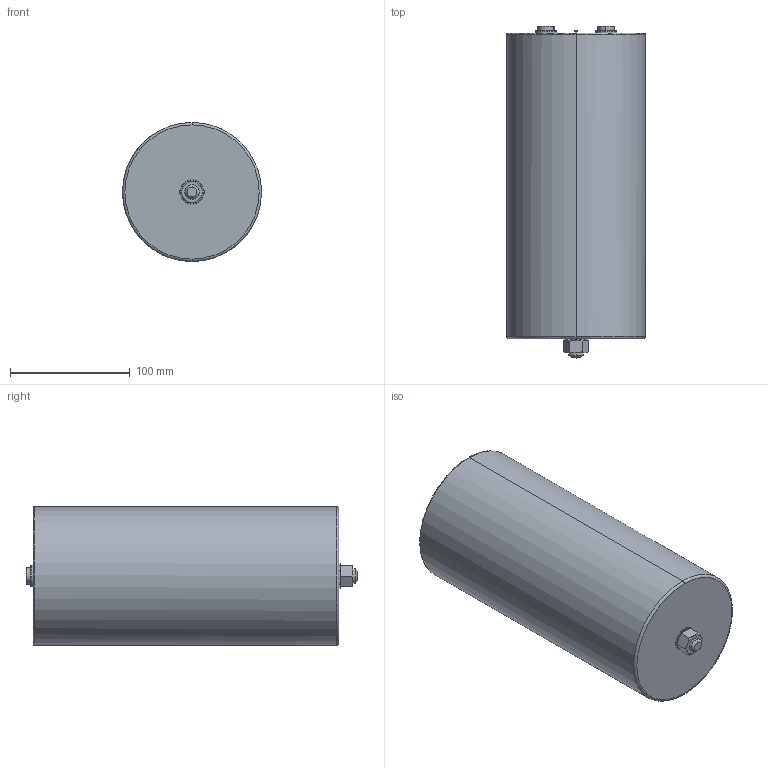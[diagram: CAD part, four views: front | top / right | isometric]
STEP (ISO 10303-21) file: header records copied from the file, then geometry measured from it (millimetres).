
FILE_DESCRIPTION (( 'STEP AP214' ), '1' );
FILE_NAME ('B25694M Series D116 Hc255 Ht261.STEP', '2025-07-24T05:45:46', ( '' ), ( '' ), 'SwSTEP 2.0', 'SolidWorks 2019', '' );
FILE_SCHEMA (( 'AUTOMOTIVE_DESIGN' ));
Length unit declared in the file: millimetre
Products named in the file (1): B25694M Series D116 Hc255 Ht261
Bounding box: 116 x 277 x 116 mm (x, y, z)
Volume: 2700061.5 mm3; surface area: 115478.8 mm2
Topology: 1 solids, 2 shells, 143 faces, 347 edges, 208 vertices
Faces by surface type: plane 60, cylinder 51, cone 22, torus 6, sphere 4
Entity records: 4281 total; most frequent: CARTESIAN_POINT 823, DIRECTION 791, ORIENTED_EDGE 678, EDGE_CURVE 339, AXIS2_PLACEMENT_3D 320, VERTEX_POINT 208, CIRCLE 176, EDGE_LOOP 153
